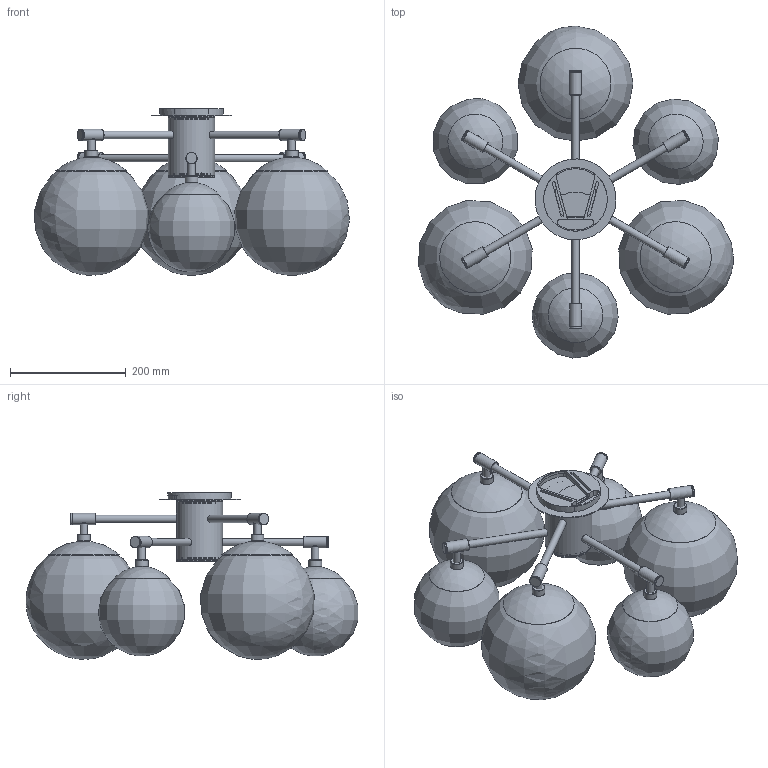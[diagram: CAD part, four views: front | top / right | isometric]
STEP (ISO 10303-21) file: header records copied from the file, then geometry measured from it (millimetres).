
FILE_DESCRIPTION(/* description */ ('','CAx-IF Rec.Pracs.---Representation and Presentation of Product Manufacturing Information (PMI)---4.0---2014-10-13'),/* implementation_level */ '2;1');
FILE_NAME(/* name */ 'B720 Orion Mix.stp',/* time_stamp */ '2024-12-04T08:14:14+01:00',/* author */ ('Lukasz'),/* organization */ (''),/* preprocessor_version */ 'ST-DEVELOPER v20',/* originating_system */ 'Autodesk Inventor 2024',/* authorisation */ '');
FILE_SCHEMA (('AP242_MANAGED_MODEL_BASED_3D_ENGINEERING_MIM_LF { 1 0 10303 442 1 1 4 }'));
Length unit declared in the file: millimetre
Products named in the file (1): B720 Orion Mix - katalog
Bounding box: 544.71 x 573.97 x 288.05 mm (x, y, z)
Volume: 2100806.7 mm3; surface area: 1449411.7 mm2
Topology: 48 solids, 48 shells, 409 faces, 772 edges, 491 vertices
Faces by surface type: plane 157, cylinder 135, cone 79, bspline 14, sphere 12, torus 12
Full cylindrical faces by diameter (mm): 8.6 x6, 10 x6, 11.6 x12, 13 x24, 14.7 x3, 16 x12, 20 x12, 22 x6, 50.221 x3, 74 x2, 77 x2, 80 x3, 80.221 x3, 110 x1, 140 x1
Entity records: 11396 total; most frequent: CARTESIAN_POINT 2266, DIRECTION 1999, ORIENTED_EDGE 1520, AXIS2_PLACEMENT_3D 838, EDGE_CURVE 760, VERTEX_POINT 491, EDGE_LOOP 475, STYLED_ITEM 458
